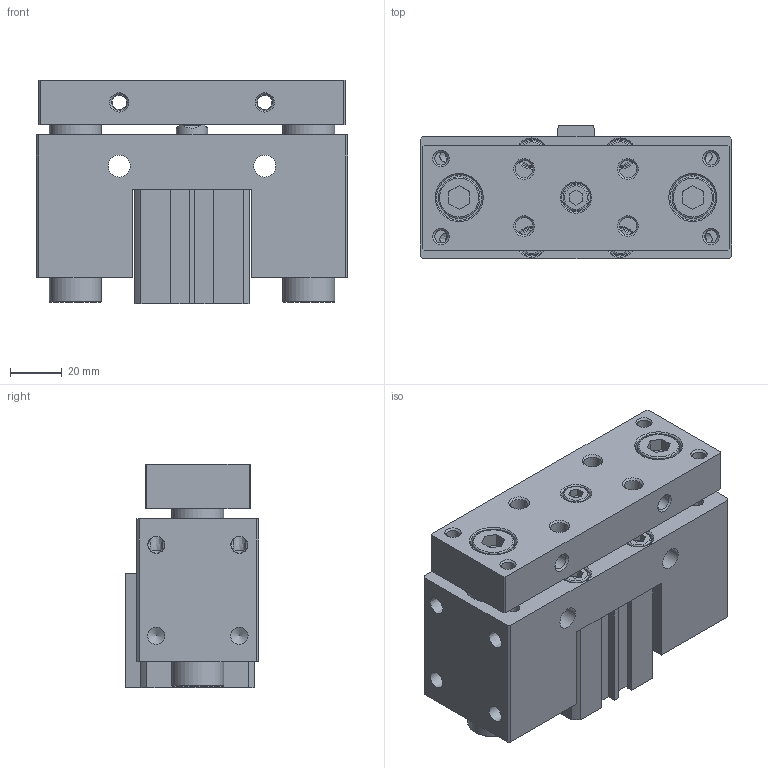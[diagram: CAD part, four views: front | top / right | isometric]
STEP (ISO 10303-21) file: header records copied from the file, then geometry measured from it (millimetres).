
FILE_DESCRIPTION((''),'2;1');
FILE_NAME('I:\3D電子目錄\氣缸\JCB\JCB\JCB32-S\JCB32x10-S.stp','2007-08-21T20:23:23',('Administrator'),(''),'Autodesk Inventor 11','Autodesk Inventor 11','');
FILE_SCHEMA(('AUTOMOTIVE_DESIGN { 1 0 10303 214 1 1 1 1 }'));
Length unit declared in the file: millimetre
Products named in the file (1): JCB32
Bounding box: 120 x 51.5 x 86 mm (x, y, z)
Volume: 367831.1 mm3; surface area: 91701.1 mm2
Topology: 3 solids, 3 shells, 322 faces, 757 edges, 491 vertices
Faces by surface type: plane 174, cylinder 54, bspline 45, cone 41, torus 8
Full cylindrical faces by diameter (mm): 2.2 x2, 5.1 x4, 6 x2, 6.647 x4, 8 x8, 10 x5, 11 x5, 12 x1, 13 x1, 16 x2, 17.5 x2, 20 x2, 22 x1, 23 x3, 34 x4, 36 x2
Entity records: 9312 total; most frequent: CARTESIAN_POINT 2546, DIRECTION 1348, ORIENTED_EDGE 1196, EDGE_CURVE 598, EDGE_LOOP 538, AXIS2_PLACEMENT_3D 496, VERTEX_POINT 460, VECTOR 356
